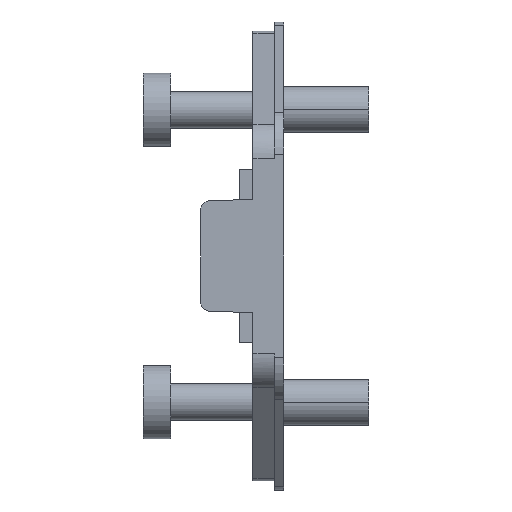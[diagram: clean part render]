
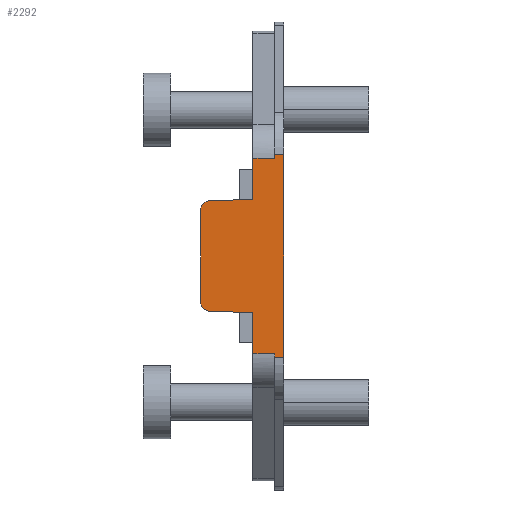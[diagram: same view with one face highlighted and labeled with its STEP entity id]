
A CAD part, left-side view. The second image highlights one B-rep face of the part: STEP entity #2292.
In plain terms, the highlighted planar face has unit normal (-1, 0, 0).
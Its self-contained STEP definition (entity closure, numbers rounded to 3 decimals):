
#9 = CARTESIAN_POINT ( 'NONE',  ( -27.5, 3.5, 11.079 ) ) ;
#13 = CARTESIAN_POINT ( 'NONE',  ( -27.5, 0.1, 25.5 ) ) ;
#15 = DIRECTION ( 'NONE',  ( 0., 0., 1. ) ) ;
#16 = DIRECTION ( 'NONE',  ( 0., -1., 0. ) ) ;
#90 = CARTESIAN_POINT ( 'NONE',  ( -27.5, 1.1, -11.5 ) ) ;
#128 = CARTESIAN_POINT ( 'NONE',  ( -27.5, 9.2, -5.035 ) ) ;
#193 = CARTESIAN_POINT ( 'NONE',  ( -27.5, 1.1, -11.023 ) ) ;
#197 = DIRECTION ( 'NONE',  ( 0., 0., 1. ) ) ;
#219 = CARTESIAN_POINT ( 'NONE',  ( -27.5, 3.5, -10.69 ) ) ;
#226 = DIRECTION ( 'NONE',  ( 0., 1., 0. ) ) ;
#227 = CARTESIAN_POINT ( 'NONE',  ( -27.5, 3.5, -6.2 ) ) ;
#228 = DIRECTION ( 'NONE',  ( 0., 0.999, 0.035 ) ) ;
#229 = CARTESIAN_POINT ( 'NONE',  ( -27.5, 9.2, -11.5 ) ) ;
#230 = DIRECTION ( 'NONE',  ( 0., 0., 1. ) ) ;
#231 = CARTESIAN_POINT ( 'NONE',  ( -27.5, 8.235, 6.035 ) ) ;
#232 = DIRECTION ( 'NONE',  ( 0., -0.999, 0.035 ) ) ;
#233 = CARTESIAN_POINT ( 'NONE',  ( -27.5, 3.5, 10.69 ) ) ;
#234 = DIRECTION ( 'NONE',  ( 0., -1., 0. ) ) ;
#308 = AXIS2_PLACEMENT_3D ( 'NONE', #2711, #2719, #2720 ) ;
#374 = EDGE_CURVE ( 'NONE', #1010, #1387, #960, .T. ) ;
#427 = EDGE_CURVE ( 'NONE', #1626, #1516, #942, .T. ) ;
#511 = EDGE_CURVE ( 'NONE', #1589, #1051, #2659, .T. ) ;
#513 = EDGE_CURVE ( 'NONE', #1045, #1590, #2672, .T. ) ;
#537 = EDGE_CURVE ( 'NONE', #1492, #1573, #1852, .T. ) ;
#546 = EDGE_CURVE ( 'NONE', #1573, #1626, #1304, .T. ) ;
#547 = EDGE_CURVE ( 'NONE', #1516, #1589, #1849, .T. ) ;
#548 = EDGE_CURVE ( 'NONE', #1051, #1045, #1713, .T. ) ;
#549 = EDGE_CURVE ( 'NONE', #1590, #1010, #1117, .T. ) ;
#550 = EDGE_CURVE ( 'NONE', #1387, #1194, #1740, .T. ) ;
#552 = EDGE_CURVE ( 'NONE', #1194, #1444, #1732, .T. ) ;
#604 = EDGE_CURVE ( 'NONE', #1459, #1492, #1123, .T. ) ;
#605 = EDGE_CURVE ( 'NONE', #1459, #1332, #1859, .T. ) ;
#606 = EDGE_CURVE ( 'NONE', #1444, #1332, #1665, .T. ) ;
#652 = CARTESIAN_POINT ( 'NONE',  ( -27.5, 8.742, -5.914 ) ) ;
#658 = CARTESIAN_POINT ( 'NONE',  ( -27.5, 8.491, -6.026 ) ) ;
#662 = CARTESIAN_POINT ( 'NONE',  ( -27.5, 8.235, -6.035 ) ) ;
#664 = CARTESIAN_POINT ( 'NONE',  ( -27.5, 9.097, -5.546 ) ) ;
#665 = CARTESIAN_POINT ( 'NONE',  ( -27.5, 9.2, -5.291 ) ) ;
#815 = CARTESIAN_POINT ( 'NONE',  ( -27.5, 0.1, 11.079 ) ) ;
#828 = CARTESIAN_POINT ( 'NONE',  ( -27.5, 3.5, 10.69 ) ) ;
#840 = CARTESIAN_POINT ( 'NONE',  ( -27.5, 1.1, 11.079 ) ) ;
#849 = CARTESIAN_POINT ( 'NONE',  ( -27.5, 0.1, -11.079 ) ) ;
#860 = CARTESIAN_POINT ( 'NONE',  ( -27.5, 1.1, -11.079 ) ) ;
#863 = CARTESIAN_POINT ( 'NONE',  ( -27.5, 1.1, -10.69 ) ) ;
#864 = CARTESIAN_POINT ( 'NONE',  ( -27.5, 3.5, -6.2 ) ) ;
#877 = CARTESIAN_POINT ( 'NONE',  ( -27.5, 8.235, -6.035 ) ) ;
#878 = CARTESIAN_POINT ( 'NONE',  ( -27.5, 8.235, 6.035 ) ) ;
#942 = LINE ( 'NONE', #2506, #1282 ) ;
#959 = VECTOR ( 'NONE', #2374, 1000. ) ;
#960 = LINE ( 'NONE', #2373, #959 ) ;
#984 = ORIENTED_EDGE ( 'NONE', *, *, #547, .F. ) ;
#985 = ORIENTED_EDGE ( 'NONE', *, *, #511, .F. ) ;
#986 = ORIENTED_EDGE ( 'NONE', *, *, #513, .F. ) ;
#987 = ORIENTED_EDGE ( 'NONE', *, *, #374, .F. ) ;
#988 = ORIENTED_EDGE ( 'NONE', *, *, #606, .F. ) ;
#1010 = VERTEX_POINT ( 'NONE', #2023 ) ;
#1029 = EDGE_LOOP ( 'NONE', ( #1135, #988, #1407, #1384, #987, #1186, #986, #1175, #985, #984, #1618, #1216, #1316, #1258 ) ) ;
#1045 = VERTEX_POINT ( 'NONE', #2047 ) ;
#1051 = VERTEX_POINT ( 'NONE', #2030 ) ;
#1116 = VECTOR ( 'NONE', #15, 1000. ) ;
#1117 = LINE ( 'NONE', #231, #1847 ) ;
#1123 = LINE ( 'NONE', #2168, #1127 ) ;
#1127 = VECTOR ( 'NONE', #2169, 1000. ) ;
#1135 = ORIENTED_EDGE ( 'NONE', *, *, #605, .T. ) ;
#1175 = ORIENTED_EDGE ( 'NONE', *, *, #548, .F. ) ;
#1186 = ORIENTED_EDGE ( 'NONE', *, *, #549, .F. ) ;
#1194 = VERTEX_POINT ( 'NONE', #2080 ) ;
#1216 = ORIENTED_EDGE ( 'NONE', *, *, #546, .F. ) ;
#1258 = ORIENTED_EDGE ( 'NONE', *, *, #604, .F. ) ;
#1282 = VECTOR ( 'NONE', #2511, 1000. ) ;
#1304 = LINE ( 'NONE', #219, #1718 ) ;
#1316 = ORIENTED_EDGE ( 'NONE', *, *, #537, .F. ) ;
#1332 = VERTEX_POINT ( 'NONE', #815 ) ;
#1371 = VECTOR ( 'NONE', #234, 1000. ) ;
#1384 = ORIENTED_EDGE ( 'NONE', *, *, #550, .F. ) ;
#1387 = VERTEX_POINT ( 'NONE', #828 ) ;
#1407 = ORIENTED_EDGE ( 'NONE', *, *, #552, .F. ) ;
#1444 = VERTEX_POINT ( 'NONE', #840 ) ;
#1459 = VERTEX_POINT ( 'NONE', #849 ) ;
#1492 = VERTEX_POINT ( 'NONE', #860 ) ;
#1516 = VERTEX_POINT ( 'NONE', #864 ) ;
#1547 = VECTOR ( 'NONE', #197, 1000. ) ;
#1569 = VECTOR ( 'NONE', #228, 1000. ) ;
#1573 = VERTEX_POINT ( 'NONE', #863 ) ;
#1589 = VERTEX_POINT ( 'NONE', #877 ) ;
#1590 = VERTEX_POINT ( 'NONE', #878 ) ;
#1618 = ORIENTED_EDGE ( 'NONE', *, *, #427, .F. ) ;
#1626 = VERTEX_POINT ( 'NONE', #2531 ) ;
#1665 = LINE ( 'NONE', #9, #1862 ) ;
#1713 = LINE ( 'NONE', #229, #1736 ) ;
#1718 = VECTOR ( 'NONE', #226, 1000. ) ;
#1732 = LINE ( 'NONE', #90, #1848 ) ;
#1736 = VECTOR ( 'NONE', #230, 1000. ) ;
#1740 = LINE ( 'NONE', #233, #1371 ) ;
#1847 = VECTOR ( 'NONE', #232, 1000. ) ;
#1848 = VECTOR ( 'NONE', #2595, 1000. ) ;
#1849 = LINE ( 'NONE', #227, #1569 ) ;
#1852 = LINE ( 'NONE', #193, #1547 ) ;
#1859 = LINE ( 'NONE', #13, #1116 ) ;
#1862 = VECTOR ( 'NONE', #16, 1000. ) ;
#2001 = FACE_OUTER_BOUND ( 'NONE', #1029, .T. ) ;
#2023 = CARTESIAN_POINT ( 'NONE',  ( -27.5, 3.5, 6.2 ) ) ;
#2030 = CARTESIAN_POINT ( 'NONE',  ( -27.5, 9.2, -5.035 ) ) ;
#2047 = CARTESIAN_POINT ( 'NONE',  ( -27.5, 9.2, 5.035 ) ) ;
#2080 = CARTESIAN_POINT ( 'NONE',  ( -27.5, 1.1, 10.69 ) ) ;
#2168 = CARTESIAN_POINT ( 'NONE',  ( -27.5, 3.5, -11.079 ) ) ;
#2169 = DIRECTION ( 'NONE',  ( 0., 1., 0. ) ) ;
#2173 = CARTESIAN_POINT ( 'NONE',  ( -27.5, 9.2, 5.035 ) ) ;
#2175 = CARTESIAN_POINT ( 'NONE',  ( -27.5, 9.2, 5.291 ) ) ;
#2176 = CARTESIAN_POINT ( 'NONE',  ( -27.5, 9.097, 5.546 ) ) ;
#2177 = CARTESIAN_POINT ( 'NONE',  ( -27.5, 8.742, 5.914 ) ) ;
#2178 = CARTESIAN_POINT ( 'NONE',  ( -27.5, 8.491, 6.026 ) ) ;
#2179 = CARTESIAN_POINT ( 'NONE',  ( -27.5, 8.235, 6.035 ) ) ;
#2292 = ADVANCED_FACE ( 'NONE', ( #2001 ), #2716, .F. ) ;
#2373 = CARTESIAN_POINT ( 'NONE',  ( -27.5, 3.5, -11.5 ) ) ;
#2374 = DIRECTION ( 'NONE',  ( 0., 0., 1. ) ) ;
#2506 = CARTESIAN_POINT ( 'NONE',  ( -27.5, 3.5, -11.5 ) ) ;
#2511 = DIRECTION ( 'NONE',  ( 0., 0., 1. ) ) ;
#2531 = CARTESIAN_POINT ( 'NONE',  ( -27.5, 3.5, -10.69 ) ) ;
#2595 = DIRECTION ( 'NONE',  ( 0., 0., 1. ) ) ;
#2659 = B_SPLINE_CURVE_WITH_KNOTS ( 'NONE', 3,
 ( #662, #658, #652, #664, #665, #128 ),
 .UNSPECIFIED., .F., .F.,
 ( 4, 2, 4 ),
 ( 0., 0.5, 1. ),
 .UNSPECIFIED. ) ;
#2672 = B_SPLINE_CURVE_WITH_KNOTS ( 'NONE', 3,
 ( #2173, #2175, #2176, #2177, #2178, #2179 ),
 .UNSPECIFIED., .F., .F.,
 ( 4, 2, 4 ),
 ( 0., 0.5, 1. ),
 .UNSPECIFIED. ) ;
#2711 = CARTESIAN_POINT ( 'NONE',  ( -27.5, 3.5, -11.5 ) ) ;
#2716 = PLANE ( 'NONE',  #308 ) ;
#2719 = DIRECTION ( 'NONE',  ( 1., 0., 0. ) ) ;
#2720 = DIRECTION ( 'NONE',  ( 0., 0., -1. ) ) ;
